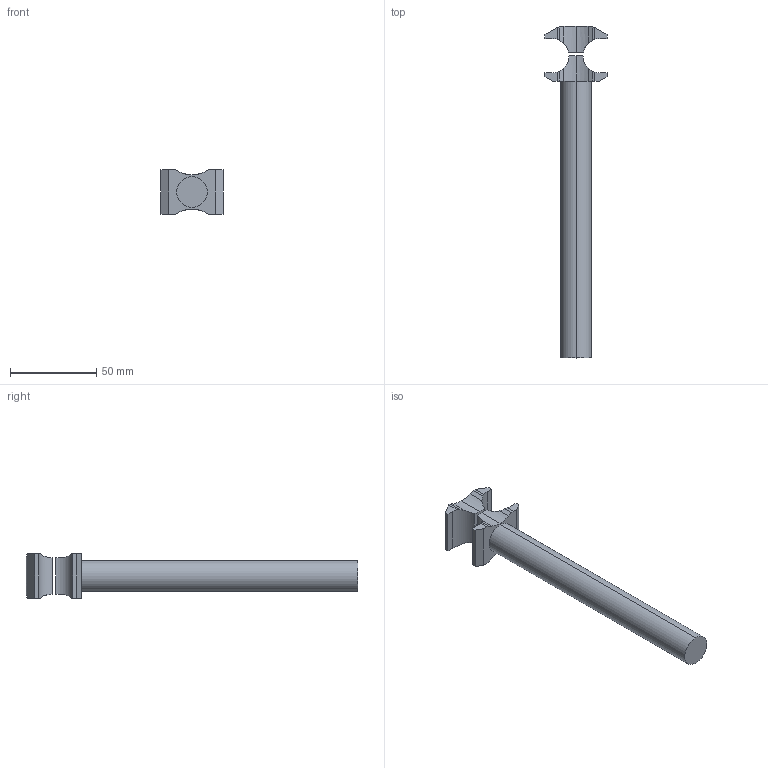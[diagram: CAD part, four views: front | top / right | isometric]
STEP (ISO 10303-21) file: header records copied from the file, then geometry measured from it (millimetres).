
FILE_DESCRIPTION (( 'STEP AP214' ), '1' );
FILE_NAME ('FGRC 18X160C.step', '2017-04-05T07:39:15', ( '' ), ( '' ), 'SwSTEP 2.0', 'SolidWorks 2015', '' );
FILE_SCHEMA (( 'AUTOMOTIVE_DESIGN' ));
Length unit declared in the file: millimetre
Products named in the file (1): FGRC 18X160C
Bounding box: 36 x 192.7 x 26 mm (x, y, z)
Volume: 53819.5 mm3; surface area: 14830 mm2
Topology: 2 solids, 2 shells, 58 faces, 156 edges, 104 vertices
Faces by surface type: plane 41, cylinder 17
Entity records: 2011 total; most frequent: CARTESIAN_POINT 570, ORIENTED_EDGE 312, DIRECTION 268, EDGE_CURVE 156, VERTEX_POINT 104, AXIS2_PLACEMENT_3D 90, VECTOR 88, LINE 88
